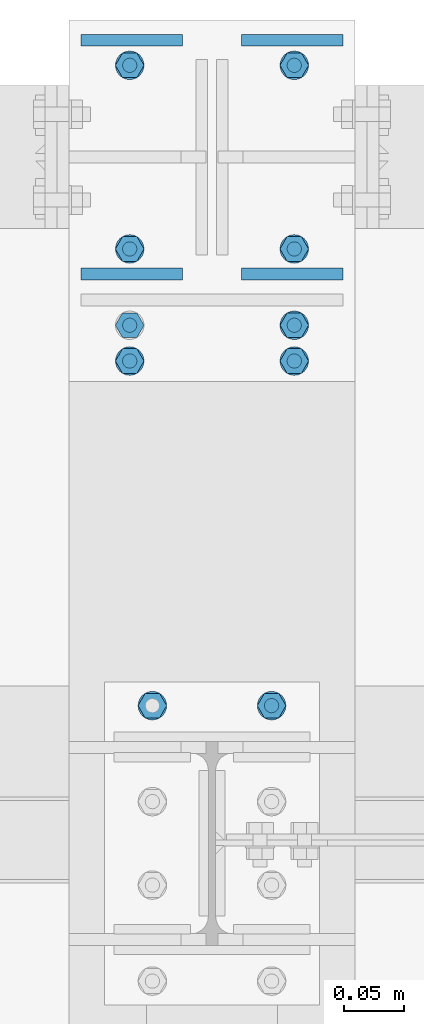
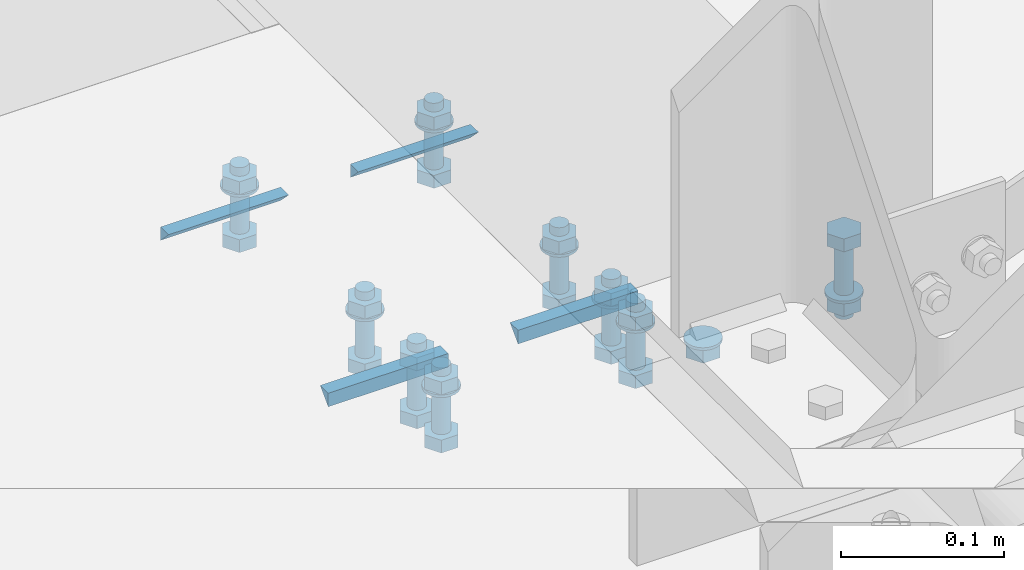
# One storey, part 60 of 66: 37 mechanical fasteners, 8 fasteners.
"""IFC4 building model written with IfcOpenShell, lengths in metres."""

from ifc_helpers import new_model, si_unit, frame, origin_with_axes, place, context, project, spatial, polyline, outline, extrude, type_object, element, save


model = new_model("IFC4")

# Units and contexts
model_context = context("Model", 3, precision=1e-05, world=origin_with_axes())
ifc_project = project(units=[si_unit("LENGTHUNIT", "METRE"), si_unit("AREAUNIT", "SQUARE_METRE"), si_unit("VOLUMEUNIT", "CUBIC_METRE"), si_unit("MASSUNIT", "GRAM", prefix="KILO"), si_unit("TIMEUNIT", "SECOND"), si_unit("PLANEANGLEUNIT", "RADIAN"), si_unit("SOLIDANGLEUNIT", "STERADIAN"), si_unit("THERMODYNAMICTEMPERATUREUNIT", "DEGREE_CELSIUS")], contexts=[model_context])

# Site, building, storey
placement_1 = place(None, origin_with_axes())
site = spatial("IfcSite", under=ifc_project, at=placement_1, Name="Italia", CompositionType="ELEMENT")
building = spatial("IfcBuilding", under=site, at=placement_1, Name="Uffici", CompositionType="ELEMENT")
storey_placement = place(None, frame((0.0, 0.0, 3.299999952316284), z_axis=(0.0, 0.0, 1.0), x_axis=(1.0, 0.0, 0.0)))
storey = spatial("IfcBuildingStorey", under=building, at=storey_placement, Name="Storey 1", CompositionType="ELEMENT", Elevation=3.299999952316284)

# Mechanical fasteners
mechanical_fastener_type_1 = type_object("IfcMechanicalFastenerType", Name="Collegamento 0109_0209", PredefinedType="BOLT")
placement_2 = place(placement_1, origin_with_axes())
mechanical_fastener_1_placement = place(placement_2, origin_with_axes())
element("IfcMechanicalFastener", 1, at=mechanical_fastener_1_placement, inside=storey, type_object=mechanical_fastener_type_1, Name="Collegamento 0109_0209", NominalDiameter=0.0119997, context=model_context, shape_type="SweptSolid", body=[
    extrude(outline(polyline([(0.0, 0.0), (0.0, 0.0120001), (0.0103922, 0.0180006), (0.0207844, 0.0120001), (0.0207844, 0.0), (0.0103922, -0.00599957), (0.0, 0.0)])), frame((9.411, 4.91961, 3.2714), z_axis=(0.0, 0.0, 1.0), x_axis=(0.0, 1.0, 0.0)), (0.0, 0.0, 1.0), 0.00959992),
])
mechanical_fastener_type_2 = type_object("IfcMechanicalFastenerType", Name="Collegamento 0109_0209", PredefinedType="BOLT")
mechanical_fastener_2_placement = place(placement_2, origin_with_axes())
element("IfcMechanicalFastener", 2, at=mechanical_fastener_2_placement, inside=storey, type_object=mechanical_fastener_type_2, Name="Collegamento 0109_0209", NominalDiameter=0.024, context=model_context, shape_type="SweptSolid", body=[
    extrude(outline(polyline([(0.0, 0.0), (-0.000409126, -0.00310612), (-0.00160789, -0.00599957), (-0.00351477, -0.00848484), (-0.00600004, -0.0103922), (-0.00889444, -0.011591), (-0.0120001, -0.0120001), (-0.0151057, -0.011591), (-0.0180001, -0.0103922), (-0.0204854, -0.00848484), (-0.0223923, -0.00599957), (-0.023591, -0.00310612), (-0.0240002, 0.0), (-0.023591, 0.00310612), (-0.0223923, 0.00599957), (-0.0204854, 0.00848484), (-0.0180001, 0.0103922), (-0.0151057, 0.011591), (-0.0120001, 0.0120001), (-0.00889444, 0.011591), (-0.00600004, 0.0103922), (-0.00351477, 0.00848484), (-0.00160789, 0.00599957), (-0.000409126, 0.00310612), (0.0, 0.0)])), frame((9.405, 4.942, 3.281), z_axis=(0.0, 0.0, 1.0), x_axis=(0.0, 1.0, 0.0)), (0.0, 0.0, 1.0), 0.00200009),
])
mechanical_fastener_type_3 = type_object("IfcMechanicalFastenerType", Name="Collegamento 0109_0209", PredefinedType="BOLT")
mechanical_fastener_3_placement = place(placement_2, origin_with_axes())
element("IfcMechanicalFastener", 3, at=mechanical_fastener_3_placement, inside=storey, type_object=mechanical_fastener_type_3, Name="Collegamento 0109_0209", NominalDiameter=0.0119997, context=model_context, shape_type="SweptSolid", body=[
    extrude(outline(polyline([(0.0, 0.0), (0.0, 0.0120001), (0.0103922, 0.0179996), (0.0207844, 0.0120001), (0.0207844, 0.0), (0.0103922, -0.00600052), (0.0, 0.0)])), frame((9.511, 4.91961, 3.32), z_axis=(0.0, 0.0, 1.0), x_axis=(0.0, 1.0, 0.0)), (0.0, 0.0, 1.0), 0.00959992),
])
mechanical_fastener_type_4 = type_object("IfcMechanicalFastenerType", Name="Collegamento 0109_0209", PredefinedType="BOLT")
mechanical_fastener_4_placement = place(placement_2, origin_with_axes())
element("IfcMechanicalFastener", 4, at=mechanical_fastener_4_placement, inside=storey, type_object=mechanical_fastener_type_4, Name="Collegamento 0109_0209", NominalDiameter=0.012, context=model_context, shape_type="SweptSolid", body=[
    extrude(outline(polyline([(0.0, 0.0), (-0.000204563, -0.00155258), (-0.000803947, -0.00300026), (-0.00175762, -0.0042429), (-0.00300026, -0.00519657), (-0.00444698, -0.00579548), (-0.00600004, -0.00599957), (-0.0075531, -0.00579548), (-0.00899982, -0.00519657), (-0.0102425, -0.0042429), (-0.0111961, -0.00300026), (-0.0117955, -0.00155258), (-0.0120001, 0.0), (-0.0117955, 0.00155258), (-0.0111961, 0.00300026), (-0.0102425, 0.0042429), (-0.00899982, 0.00519657), (-0.0075531, 0.00579548), (-0.00600004, 0.00599957), (-0.00444698, 0.00579548), (-0.00300026, 0.00519657), (-0.00175762, 0.0042429), (-0.000803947, 0.00300026), (-0.000204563, 0.00155258), (0.0, 0.0)])), frame((9.505, 4.936, 3.265), z_axis=(0.0, 0.0, 1.0), x_axis=(0.0, 1.0, 0.0)), (0.0, 0.0, 1.0), 0.0550001),
])
mechanical_fastener_type_5 = type_object("IfcMechanicalFastenerType", Name="Collegamento 0109_0209", PredefinedType="BOLT")
mechanical_fastener_5_placement = place(placement_2, origin_with_axes())
element("IfcMechanicalFastener", 5, at=mechanical_fastener_5_placement, inside=storey, type_object=mechanical_fastener_type_5, Name="Collegamento 0109_0209", NominalDiameter=0.0119997, context=model_context, shape_type="SweptSolid", body=[
    extrude(outline(polyline([(0.0, 0.0), (0.0, 0.0120001), (0.0103922, 0.0179996), (0.0207844, 0.0120001), (0.0207844, 0.0), (0.0103922, -0.00600052), (0.0, 0.0)])), frame((9.511, 4.91961, 3.2714), z_axis=(0.0, 0.0, 1.0), x_axis=(0.0, 1.0, 0.0)), (0.0, 0.0, 1.0), 0.00959992),
])
mechanical_fastener_type_6 = type_object("IfcMechanicalFastenerType", Name="Collegamento 0109_0209", PredefinedType="BOLT")
mechanical_fastener_6_placement = place(placement_2, origin_with_axes())
element("IfcMechanicalFastener", 6, at=mechanical_fastener_6_placement, inside=storey, type_object=mechanical_fastener_type_6, Name="Collegamento 0109_0209", NominalDiameter=0.024, context=model_context, shape_type="SweptSolid", body=[
    extrude(outline(polyline([(0.0, 0.0), (-0.000409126, -0.00310612), (-0.00160789, -0.00599957), (-0.00351477, -0.00848484), (-0.00600004, -0.0103922), (-0.00889444, -0.011591), (-0.0120001, -0.0120001), (-0.0151057, -0.011591), (-0.0180001, -0.0103922), (-0.0204854, -0.00848484), (-0.0223923, -0.00599957), (-0.023591, -0.00310612), (-0.0240002, 0.0), (-0.023591, 0.00310612), (-0.0223923, 0.00599957), (-0.0204854, 0.00848484), (-0.0180001, 0.0103922), (-0.0151057, 0.011591), (-0.0120001, 0.0120001), (-0.00889444, 0.011591), (-0.00600004, 0.0103922), (-0.00351477, 0.00848484), (-0.00160789, 0.00599957), (-0.000409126, 0.00310612), (0.0, 0.0)])), frame((9.505, 4.942, 3.281), z_axis=(0.0, 0.0, 1.0), x_axis=(0.0, 1.0, 0.0)), (0.0, 0.0, 1.0), 0.00200009),
])

# Fasteners
fastener_type_1 = type_object("IfcFastenerType", Name="Collegamenti 0111_0011 0112_0012 0113_0013 0114_0014 0115_0015", PredefinedType="WELD")
fastener_1_placement = place(placement_2, origin_with_axes())
element("IfcFastener", 7, at=fastener_1_placement, inside=storey, type_object=fastener_type_1, Name="Collegamenti 0111_0011 0112_0012 0113_0013 0114_0014 0115_0015", context=model_context, shape_type="SweptSolid", body=[
    extrude(outline(polyline([(0.0, 0.0), (-0.00986814, -0.0101733), (-0.00986814, 0.0), (0.0, 0.0)])), frame((9.56505, 5.48318, 3.04505), z_axis=(-1.0, 0.0, 0.0), x_axis=(0.0, -1.0, 0.0)), (0.0, 0.0, 1.0), 0.08535),
])
fastener_type_2 = type_object("IfcFastenerType", Name="Collegamenti 0111_0011 0112_0012 0113_0013 0114_0014 0115_0015", PredefinedType="WELD")
fastener_2_placement = place(placement_2, origin_with_axes())
element("IfcFastener", 8, at=fastener_2_placement, inside=storey, type_object=fastener_type_2, Name="Collegamenti 0111_0011 0112_0012 0113_0013 0114_0014 0115_0015", context=model_context, shape_type="SweptSolid", body=[
    extrude(outline(polyline([(0.0, 0.0), (-0.00986814, -0.0101733), (-0.00986814, 0.0), (0.0, 0.0)])), frame((9.4797, 5.29682, 3.04505), z_axis=(1.0, 0.0, 0.0), x_axis=(0.0, 1.0, 0.0)), (0.0, 0.0, 1.0), 0.08535),
])
fastener_type_3 = type_object("IfcFastenerType", Name="Collegamenti 0111_0011 0112_0012 0113_0013 0114_0014 0115_0015", PredefinedType="WELD")
fastener_3_placement = place(placement_2, origin_with_axes())
element("IfcFastener", 9, at=fastener_3_placement, inside=storey, type_object=fastener_type_3, Name="Collegamenti 0111_0011 0112_0012 0113_0013 0114_0014 0115_0015", context=model_context, shape_type="SweptSolid", body=[
    extrude(outline(polyline([(0.0, 0.0), (-0.00986814, -0.0101733), (-0.00986814, 0.0), (0.0, 0.0)])), frame((9.34495, 5.29682, 3.04505), z_axis=(1.0, 0.0, 0.0), x_axis=(0.0, 1.0, 0.0)), (0.0, 0.0, 1.0), 0.08535),
])
fastener_type_4 = type_object("IfcFastenerType", Name="Collegamenti 0111_0011 0112_0012 0113_0013 0114_0014 0115_0015", PredefinedType="WELD")
fastener_4_placement = place(placement_2, origin_with_axes())
element("IfcFastener", 10, at=fastener_4_placement, inside=storey, type_object=fastener_type_4, Name="Collegamenti 0111_0011 0112_0012 0113_0013 0114_0014 0115_0015", context=model_context, shape_type="SweptSolid", body=[
    extrude(outline(polyline([(0.0, 0.0), (-0.00986814, -0.0101733), (-0.00986814, 0.0), (0.0, 0.0)])), frame((9.4303, 5.48318, 3.04505), z_axis=(-1.0, 0.0, 0.0), x_axis=(0.0, -1.0, 0.0)), (0.0, 0.0, 1.0), 0.08535),
])
fastener_type_5 = type_object("IfcFastenerType", Name="Collegamenti 0111_0011 0112_0012 0113_0013 0114_0014 0115_0015", PredefinedType="WELD")
fastener_5_placement = place(placement_2, origin_with_axes())
element("IfcFastener", 11, at=fastener_5_placement, inside=storey, type_object=fastener_type_5, Name="Collegamenti 0111_0011 0112_0012 0113_0013 0114_0014 0115_0015", context=model_context, shape_type="SweptSolid", body=[
    extrude(outline(polyline([(0.0, 0.0), (-0.00986814, -0.0101733), (-0.00986814, 0.0), (0.0, 0.0)])), frame((9.56505, 5.48318, 3.04505), z_axis=(-1.0, 0.0, 0.0), x_axis=(0.0, -1.0, 0.0)), (0.0, 0.0, 1.0), 0.08535),
])
fastener_type_6 = type_object("IfcFastenerType", Name="Collegamenti 0111_0011 0112_0012 0113_0013 0114_0014 0115_0015", PredefinedType="WELD")
fastener_6_placement = place(placement_2, origin_with_axes())
element("IfcFastener", 12, at=fastener_6_placement, inside=storey, type_object=fastener_type_6, Name="Collegamenti 0111_0011 0112_0012 0113_0013 0114_0014 0115_0015", context=model_context, shape_type="SweptSolid", body=[
    extrude(outline(polyline([(0.0, 0.0), (-0.00986814, -0.0101733), (-0.00986814, 0.0), (0.0, 0.0)])), frame((9.4797, 5.29682, 3.04505), z_axis=(1.0, 0.0, 0.0), x_axis=(0.0, 1.0, 0.0)), (0.0, 0.0, 1.0), 0.08535),
])
fastener_type_7 = type_object("IfcFastenerType", Name="Collegamenti 0111_0011 0112_0012 0113_0013 0114_0014 0115_0015", PredefinedType="WELD")
fastener_7_placement = place(placement_2, origin_with_axes())
element("IfcFastener", 13, at=fastener_7_placement, inside=storey, type_object=fastener_type_7, Name="Collegamenti 0111_0011 0112_0012 0113_0013 0114_0014 0115_0015", context=model_context, shape_type="SweptSolid", body=[
    extrude(outline(polyline([(0.0, 0.0), (-0.00986814, -0.0101733), (-0.00986814, 0.0), (0.0, 0.0)])), frame((9.34495, 5.29682, 3.04505), z_axis=(1.0, 0.0, 0.0), x_axis=(0.0, 1.0, 0.0)), (0.0, 0.0, 1.0), 0.08535),
])
fastener_type_8 = type_object("IfcFastenerType", Name="Collegamenti 0111_0011 0112_0012 0113_0013 0114_0014 0115_0015", PredefinedType="WELD")
fastener_8_placement = place(placement_2, origin_with_axes())
element("IfcFastener", 14, at=fastener_8_placement, inside=storey, type_object=fastener_type_8, Name="Collegamenti 0111_0011 0112_0012 0113_0013 0114_0014 0115_0015", context=model_context, shape_type="SweptSolid", body=[
    extrude(outline(polyline([(0.0, 0.0), (-0.00986814, -0.0101733), (-0.00986814, 0.0), (0.0, 0.0)])), frame((9.4303, 5.48318, 3.04505), z_axis=(-1.0, 0.0, 0.0), x_axis=(0.0, -1.0, 0.0)), (0.0, 0.0, 1.0), 0.08535),
])

# Mechanical fasteners
mechanical_fastener_type_7 = type_object("IfcMechanicalFastenerType", Name="Collegamenti 0111_0011 0112_0012 0113_0013 0114_0014 0115_0015", PredefinedType="BOLT")
mechanical_fastener_7_placement = place(placement_2, origin_with_axes())
element("IfcMechanicalFastener", 15, at=mechanical_fastener_7_placement, inside=storey, type_object=mechanical_fastener_type_7, Name="Collegamenti 0111_0011 0112_0012 0113_0013 0114_0014 0115_0015", NominalDiameter=0.0119997, context=model_context, shape_type="SweptSolid", body=[
    extrude(outline(polyline([(0.0, 0.0), (0.0, 0.0120001), (0.0103922, 0.0180006), (0.0207849, 0.0120001), (0.0207849, 0.0), (0.0103922, -0.00599957), (0.0, 0.0)])), frame((9.518, 5.30261, 3.045), z_axis=(0.0, 0.0, -1.0), x_axis=(0.0, 1.0, 0.0)), (0.0, 0.0, 1.0), 0.00959992),
])
mechanical_fastener_type_8 = type_object("IfcMechanicalFastenerType", Name="Collegamenti 0111_0011 0112_0012 0113_0013 0114_0014 0115_0015", PredefinedType="BOLT")
mechanical_fastener_8_placement = place(placement_2, origin_with_axes())
element("IfcMechanicalFastener", 16, at=mechanical_fastener_8_placement, inside=storey, type_object=mechanical_fastener_type_8, Name="Collegamenti 0111_0011 0112_0012 0113_0013 0114_0014 0115_0015", NominalDiameter=0.012, context=model_context, shape_type="SweptSolid", body=[
    extrude(outline(polyline([(0.0, 0.0), (-0.000204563, -0.00155258), (-0.000803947, -0.00300026), (-0.00175762, -0.0042429), (-0.00300026, -0.00519657), (-0.00444698, -0.00579548), (-0.00600004, -0.00599957), (-0.0075531, -0.00579548), (-0.00899982, -0.00519657), (-0.0102425, -0.0042429), (-0.0111961, -0.00300026), (-0.0117955, -0.00155258), (-0.0120001, 0.0), (-0.0117955, 0.00155258), (-0.0111961, 0.00300026), (-0.0102425, 0.0042429), (-0.00899982, 0.00519657), (-0.0075531, 0.00579548), (-0.00600004, 0.00599957), (-0.00444698, 0.00579548), (-0.00300026, 0.00519657), (-0.00175762, 0.0042429), (-0.000803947, 0.00300026), (-0.000204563, 0.00155258), (0.0, 0.0)])), frame((9.524, 5.319, 3.095), z_axis=(0.0, 0.0, -1.0), x_axis=(0.0, 1.0, 0.0)), (0.0, 0.0, 1.0), 0.0500002),
])
mechanical_fastener_type_9 = type_object("IfcMechanicalFastenerType", Name="Collegamenti 0111_0011 0112_0012 0113_0013 0114_0014 0115_0015", PredefinedType="BOLT")
mechanical_fastener_9_placement = place(placement_2, origin_with_axes())
element("IfcMechanicalFastener", 17, at=mechanical_fastener_9_placement, inside=storey, type_object=mechanical_fastener_type_9, Name="Collegamenti 0111_0011 0112_0012 0113_0013 0114_0014 0115_0015", NominalDiameter=0.0119997, context=model_context, shape_type="SweptSolid", body=[
    extrude(outline(polyline([(0.0, 0.0), (0.0, 0.0120001), (0.0103922, 0.0180006), (0.0207849, 0.0120001), (0.0207849, 0.0), (0.0103922, -0.00599957), (0.0, 0.0)])), frame((9.518, 5.30261, 3.0886), z_axis=(0.0, 0.0, -1.0), x_axis=(0.0, 1.0, 0.0)), (0.0, 0.0, 1.0), 0.00959992),
])
mechanical_fastener_type_10 = type_object("IfcMechanicalFastenerType", Name="Collegamenti 0111_0011 0112_0012 0113_0013 0114_0014 0115_0015", PredefinedType="BOLT")
mechanical_fastener_10_placement = place(placement_2, origin_with_axes())
element("IfcMechanicalFastener", 18, at=mechanical_fastener_10_placement, inside=storey, type_object=mechanical_fastener_type_10, Name="Collegamenti 0111_0011 0112_0012 0113_0013 0114_0014 0115_0015", NominalDiameter=0.024, context=model_context, shape_type="SweptSolid", body=[
    extrude(outline(polyline([(0.0, 0.0), (-0.000409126, -0.00310612), (-0.00160789, -0.00599957), (-0.00351477, -0.00848484), (-0.00600004, -0.0103922), (-0.00889444, -0.011591), (-0.0120001, -0.0120001), (-0.0151057, -0.011591), (-0.0180001, -0.0103922), (-0.0204854, -0.00848484), (-0.0223923, -0.00599957), (-0.023591, -0.00310612), (-0.0240002, 0.0), (-0.023591, 0.00310612), (-0.0223923, 0.00599957), (-0.0204854, 0.00848484), (-0.0180001, 0.0103922), (-0.0151057, 0.011591), (-0.0120001, 0.0120001), (-0.00889444, 0.011591), (-0.00600004, 0.0103922), (-0.00351477, 0.00848484), (-0.00160789, 0.00599957), (-0.000409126, 0.00310612), (0.0, 0.0)])), frame((9.524, 5.325, 3.079), z_axis=(0.0, 0.0, -1.0), x_axis=(0.0, 1.0, 0.0)), (0.0, 0.0, 1.0), 0.00200009),
])
mechanical_fastener_type_11 = type_object("IfcMechanicalFastenerType", Name="Collegamenti 0111_0011 0112_0012 0113_0013 0114_0014 0115_0015", PredefinedType="BOLT")
mechanical_fastener_11_placement = place(placement_2, origin_with_axes())
element("IfcMechanicalFastener", 19, at=mechanical_fastener_11_placement, inside=storey, type_object=mechanical_fastener_type_11, Name="Collegamenti 0111_0011 0112_0012 0113_0013 0114_0014 0115_0015", NominalDiameter=0.0119997, context=model_context, shape_type="SweptSolid", body=[
    extrude(outline(polyline([(0.0, 0.0), (0.0, 0.0120001), (0.0103922, 0.0179996), (0.0207849, 0.0120001), (0.0207849, 0.0), (0.0103922, -0.00600052), (0.0, 0.0)])), frame((9.38, 5.30261, 3.045), z_axis=(0.0, 0.0, -1.0), x_axis=(0.0, 1.0, 0.0)), (0.0, 0.0, 1.0), 0.00959992),
])
mechanical_fastener_type_12 = type_object("IfcMechanicalFastenerType", Name="Collegamenti 0111_0011 0112_0012 0113_0013 0114_0014 0115_0015", PredefinedType="BOLT")
mechanical_fastener_12_placement = place(placement_2, origin_with_axes())
element("IfcMechanicalFastener", 20, at=mechanical_fastener_12_placement, inside=storey, type_object=mechanical_fastener_type_12, Name="Collegamenti 0111_0011 0112_0012 0113_0013 0114_0014 0115_0015", NominalDiameter=0.012, context=model_context, shape_type="SweptSolid", body=[
    extrude(outline(polyline([(0.0, 0.0), (-0.000204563, -0.00155258), (-0.000803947, -0.00300026), (-0.00175762, -0.0042429), (-0.00300026, -0.00519657), (-0.00444698, -0.00579548), (-0.00600004, -0.00599957), (-0.0075531, -0.00579548), (-0.00899982, -0.00519657), (-0.0102425, -0.0042429), (-0.0111961, -0.00300026), (-0.0117955, -0.00155258), (-0.0120001, 0.0), (-0.0117955, 0.00155258), (-0.0111961, 0.00300026), (-0.0102425, 0.0042429), (-0.00899982, 0.00519657), (-0.0075531, 0.00579548), (-0.00600004, 0.00599957), (-0.00444698, 0.00579548), (-0.00300026, 0.00519657), (-0.00175762, 0.0042429), (-0.000803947, 0.00300026), (-0.000204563, 0.00155258), (0.0, 0.0)])), frame((9.386, 5.319, 3.095), z_axis=(0.0, 0.0, -1.0), x_axis=(0.0, 1.0, 0.0)), (0.0, 0.0, 1.0), 0.0500002),
])
mechanical_fastener_type_13 = type_object("IfcMechanicalFastenerType", Name="Collegamenti 0111_0011 0112_0012 0113_0013 0114_0014 0115_0015", PredefinedType="BOLT")
mechanical_fastener_13_placement = place(placement_2, origin_with_axes())
element("IfcMechanicalFastener", 21, at=mechanical_fastener_13_placement, inside=storey, type_object=mechanical_fastener_type_13, Name="Collegamenti 0111_0011 0112_0012 0113_0013 0114_0014 0115_0015", NominalDiameter=0.0119997, context=model_context, shape_type="SweptSolid", body=[
    extrude(outline(polyline([(0.0, 0.0), (0.0, 0.0120001), (0.0103922, 0.0179996), (0.0207849, 0.0120001), (0.0207849, 0.0), (0.0103922, -0.00600052), (0.0, 0.0)])), frame((9.38, 5.30261, 3.0886), z_axis=(0.0, 0.0, -1.0), x_axis=(0.0, 1.0, 0.0)), (0.0, 0.0, 1.0), 0.00959992),
])
mechanical_fastener_type_14 = type_object("IfcMechanicalFastenerType", Name="Collegamenti 0111_0011 0112_0012 0113_0013 0114_0014 0115_0015", PredefinedType="BOLT")
mechanical_fastener_14_placement = place(placement_2, origin_with_axes())
element("IfcMechanicalFastener", 22, at=mechanical_fastener_14_placement, inside=storey, type_object=mechanical_fastener_type_14, Name="Collegamenti 0111_0011 0112_0012 0113_0013 0114_0014 0115_0015", NominalDiameter=0.024, context=model_context, shape_type="SweptSolid", body=[
    extrude(outline(polyline([(0.0, 0.0), (-0.000409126, -0.00310612), (-0.00160789, -0.00599957), (-0.00351477, -0.00848484), (-0.00600004, -0.0103922), (-0.00889444, -0.011591), (-0.0120001, -0.0120001), (-0.0151057, -0.011591), (-0.0180001, -0.0103922), (-0.0204854, -0.00848484), (-0.0223923, -0.00599957), (-0.023591, -0.00310612), (-0.0240002, 0.0), (-0.023591, 0.00310612), (-0.0223923, 0.00599957), (-0.0204854, 0.00848484), (-0.0180001, 0.0103922), (-0.0151057, 0.011591), (-0.0120001, 0.0120001), (-0.00889444, 0.011591), (-0.00600004, 0.0103922), (-0.00351477, 0.00848484), (-0.00160789, 0.00599957), (-0.000409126, 0.00310612), (0.0, 0.0)])), frame((9.386, 5.325, 3.079), z_axis=(0.0, 0.0, -1.0), x_axis=(0.0, 1.0, 0.0)), (0.0, 0.0, 1.0), 0.00200009),
])
mechanical_fastener_type_15 = type_object("IfcMechanicalFastenerType", Name="Collegamenti 0111_0011 0112_0012 0113_0013 0114_0014 0115_0015", PredefinedType="BOLT")
mechanical_fastener_15_placement = place(placement_2, origin_with_axes())
element("IfcMechanicalFastener", 23, at=mechanical_fastener_15_placement, inside=storey, type_object=mechanical_fastener_type_15, Name="Collegamenti 0111_0011 0112_0012 0113_0013 0114_0014 0115_0015", NominalDiameter=0.0119997, context=model_context, shape_type="SweptSolid", body=[
    extrude(outline(polyline([(0.0, 0.0), (0.0, 0.0120001), (0.0103927, 0.0180006), (0.0207849, 0.0120001), (0.0207849, 0.0), (0.0103927, -0.00599957), (0.0, 0.0)])), frame((9.518, 5.45661, 3.045), z_axis=(0.0, 0.0, -1.0), x_axis=(0.0, 1.0, 0.0)), (0.0, 0.0, 1.0), 0.00959992),
])
mechanical_fastener_type_16 = type_object("IfcMechanicalFastenerType", Name="Collegamenti 0111_0011 0112_0012 0113_0013 0114_0014 0115_0015", PredefinedType="BOLT")
mechanical_fastener_16_placement = place(placement_2, origin_with_axes())
element("IfcMechanicalFastener", 24, at=mechanical_fastener_16_placement, inside=storey, type_object=mechanical_fastener_type_16, Name="Collegamenti 0111_0011 0112_0012 0113_0013 0114_0014 0115_0015", NominalDiameter=0.012, context=model_context, shape_type="SweptSolid", body=[
    extrude(outline(polyline([(0.0, 0.0), (-0.000204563, -0.00155258), (-0.000803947, -0.00300026), (-0.00175762, -0.0042429), (-0.00300026, -0.00519657), (-0.00444698, -0.00579548), (-0.00600004, -0.00599957), (-0.0075531, -0.00579548), (-0.00899982, -0.00519657), (-0.0102425, -0.0042429), (-0.0111961, -0.00300026), (-0.0117955, -0.00155258), (-0.0120001, 0.0), (-0.0117955, 0.00155258), (-0.0111961, 0.00300026), (-0.0102425, 0.0042429), (-0.00899982, 0.00519657), (-0.0075531, 0.00579548), (-0.00600004, 0.00599957), (-0.00444698, 0.00579548), (-0.00300026, 0.00519657), (-0.00175762, 0.0042429), (-0.000803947, 0.00300026), (-0.000204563, 0.00155258), (0.0, 0.0)])), frame((9.524, 5.473, 3.095), z_axis=(0.0, 0.0, -1.0), x_axis=(0.0, 1.0, 0.0)), (0.0, 0.0, 1.0), 0.0500002),
])
mechanical_fastener_type_17 = type_object("IfcMechanicalFastenerType", Name="Collegamenti 0111_0011 0112_0012 0113_0013 0114_0014 0115_0015", PredefinedType="BOLT")
mechanical_fastener_17_placement = place(placement_2, origin_with_axes())
element("IfcMechanicalFastener", 25, at=mechanical_fastener_17_placement, inside=storey, type_object=mechanical_fastener_type_17, Name="Collegamenti 0111_0011 0112_0012 0113_0013 0114_0014 0115_0015", NominalDiameter=0.0119997, context=model_context, shape_type="SweptSolid", body=[
    extrude(outline(polyline([(0.0, 0.0), (0.0, 0.0120001), (0.0103927, 0.0180006), (0.0207849, 0.0120001), (0.0207849, 0.0), (0.0103927, -0.00599957), (0.0, 0.0)])), frame((9.518, 5.45661, 3.0886), z_axis=(0.0, 0.0, -1.0), x_axis=(0.0, 1.0, 0.0)), (0.0, 0.0, 1.0), 0.00959992),
])
mechanical_fastener_type_18 = type_object("IfcMechanicalFastenerType", Name="Collegamenti 0111_0011 0112_0012 0113_0013 0114_0014 0115_0015", PredefinedType="BOLT")
mechanical_fastener_18_placement = place(placement_2, origin_with_axes())
element("IfcMechanicalFastener", 26, at=mechanical_fastener_18_placement, inside=storey, type_object=mechanical_fastener_type_18, Name="Collegamenti 0111_0011 0112_0012 0113_0013 0114_0014 0115_0015", NominalDiameter=0.024, context=model_context, shape_type="SweptSolid", body=[
    extrude(outline(polyline([(0.0, 0.0), (-0.000409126, -0.00310612), (-0.00160789, -0.00599957), (-0.00351477, -0.00848484), (-0.00600004, -0.0103922), (-0.00889444, -0.011591), (-0.0120001, -0.0120001), (-0.0151057, -0.011591), (-0.0180001, -0.0103922), (-0.0204854, -0.00848484), (-0.0223923, -0.00599957), (-0.023591, -0.00310612), (-0.0240002, 0.0), (-0.023591, 0.00310612), (-0.0223923, 0.00599957), (-0.0204854, 0.00848484), (-0.0180001, 0.0103922), (-0.0151057, 0.011591), (-0.0120001, 0.0120001), (-0.00889444, 0.011591), (-0.00600004, 0.0103922), (-0.00351477, 0.00848484), (-0.00160789, 0.00599957), (-0.000409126, 0.00310612), (0.0, 0.0)])), frame((9.524, 5.479, 3.079), z_axis=(0.0, 0.0, -1.0), x_axis=(0.0, 1.0, 0.0)), (0.0, 0.0, 1.0), 0.00200009),
])
mechanical_fastener_type_19 = type_object("IfcMechanicalFastenerType", Name="Collegamenti 0111_0011 0112_0012 0113_0013 0114_0014 0115_0015", PredefinedType="BOLT")
mechanical_fastener_19_placement = place(placement_2, origin_with_axes())
element("IfcMechanicalFastener", 27, at=mechanical_fastener_19_placement, inside=storey, type_object=mechanical_fastener_type_19, Name="Collegamenti 0111_0011 0112_0012 0113_0013 0114_0014 0115_0015", NominalDiameter=0.0119997, context=model_context, shape_type="SweptSolid", body=[
    extrude(outline(polyline([(0.0, 0.0), (0.0, 0.0120001), (0.0103927, 0.0179996), (0.0207849, 0.0120001), (0.0207849, 0.0), (0.0103927, -0.00600052), (0.0, 0.0)])), frame((9.38, 5.45661, 3.045), z_axis=(0.0, 0.0, -1.0), x_axis=(0.0, 1.0, 0.0)), (0.0, 0.0, 1.0), 0.00959992),
])
mechanical_fastener_type_20 = type_object("IfcMechanicalFastenerType", Name="Collegamenti 0111_0011 0112_0012 0113_0013 0114_0014 0115_0015", PredefinedType="BOLT")
mechanical_fastener_20_placement = place(placement_2, origin_with_axes())
element("IfcMechanicalFastener", 28, at=mechanical_fastener_20_placement, inside=storey, type_object=mechanical_fastener_type_20, Name="Collegamenti 0111_0011 0112_0012 0113_0013 0114_0014 0115_0015", NominalDiameter=0.012, context=model_context, shape_type="SweptSolid", body=[
    extrude(outline(polyline([(0.0, 0.0), (-0.000204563, -0.00155258), (-0.000803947, -0.00300026), (-0.00175762, -0.0042429), (-0.00300026, -0.00519657), (-0.00444698, -0.00579548), (-0.00600004, -0.00599957), (-0.0075531, -0.00579548), (-0.00899982, -0.00519657), (-0.0102425, -0.0042429), (-0.0111961, -0.00300026), (-0.0117955, -0.00155258), (-0.0120001, 0.0), (-0.0117955, 0.00155258), (-0.0111961, 0.00300026), (-0.0102425, 0.0042429), (-0.00899982, 0.00519657), (-0.0075531, 0.00579548), (-0.00600004, 0.00599957), (-0.00444698, 0.00579548), (-0.00300026, 0.00519657), (-0.00175762, 0.0042429), (-0.000803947, 0.00300026), (-0.000204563, 0.00155258), (0.0, 0.0)])), frame((9.386, 5.473, 3.095), z_axis=(0.0, 0.0, -1.0), x_axis=(0.0, 1.0, 0.0)), (0.0, 0.0, 1.0), 0.0500002),
])
mechanical_fastener_type_21 = type_object("IfcMechanicalFastenerType", Name="Collegamenti 0111_0011 0112_0012 0113_0013 0114_0014 0115_0015", PredefinedType="BOLT")
mechanical_fastener_21_placement = place(placement_2, origin_with_axes())
element("IfcMechanicalFastener", 29, at=mechanical_fastener_21_placement, inside=storey, type_object=mechanical_fastener_type_21, Name="Collegamenti 0111_0011 0112_0012 0113_0013 0114_0014 0115_0015", NominalDiameter=0.0119997, context=model_context, shape_type="SweptSolid", body=[
    extrude(outline(polyline([(0.0, 0.0), (0.0, 0.0120001), (0.0103927, 0.0179996), (0.0207849, 0.0120001), (0.0207849, 0.0), (0.0103927, -0.00600052), (0.0, 0.0)])), frame((9.38, 5.45661, 3.0886), z_axis=(0.0, 0.0, -1.0), x_axis=(0.0, 1.0, 0.0)), (0.0, 0.0, 1.0), 0.00959992),
])
mechanical_fastener_type_22 = type_object("IfcMechanicalFastenerType", Name="Collegamenti 0111_0011 0112_0012 0113_0013 0114_0014 0115_0015", PredefinedType="BOLT")
mechanical_fastener_22_placement = place(placement_2, origin_with_axes())
element("IfcMechanicalFastener", 30, at=mechanical_fastener_22_placement, inside=storey, type_object=mechanical_fastener_type_22, Name="Collegamenti 0111_0011 0112_0012 0113_0013 0114_0014 0115_0015", NominalDiameter=0.024, context=model_context, shape_type="SweptSolid", body=[
    extrude(outline(polyline([(0.0, 0.0), (-0.000409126, -0.00310612), (-0.00160789, -0.00599957), (-0.00351477, -0.00848484), (-0.00600004, -0.0103922), (-0.00889444, -0.011591), (-0.0120001, -0.0120001), (-0.0151057, -0.011591), (-0.0180001, -0.0103922), (-0.0204854, -0.00848484), (-0.0223923, -0.00599957), (-0.023591, -0.00310612), (-0.0240002, 0.0), (-0.023591, 0.00310612), (-0.0223923, 0.00599957), (-0.0204854, 0.00848484), (-0.0180001, 0.0103922), (-0.0151057, 0.011591), (-0.0120001, 0.0120001), (-0.00889444, 0.011591), (-0.00600004, 0.0103922), (-0.00351477, 0.00848484), (-0.00160789, 0.00599957), (-0.000409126, 0.00310612), (0.0, 0.0)])), frame((9.386, 5.479, 3.079), z_axis=(0.0, 0.0, -1.0), x_axis=(0.0, 1.0, 0.0)), (0.0, 0.0, 1.0), 0.00200009),
])
mechanical_fastener_type_23 = type_object("IfcMechanicalFastenerType", Name="Collegamenti 0111_0011 0112_0012 0113_0013 0114_0014 0115_0015", PredefinedType="BOLT")
mechanical_fastener_23_placement = place(placement_2, origin_with_axes())
element("IfcMechanicalFastener", 31, at=mechanical_fastener_23_placement, inside=storey, type_object=mechanical_fastener_type_23, Name="Collegamenti 0111_0011 0112_0012 0113_0013 0114_0014 0115_0015", NominalDiameter=0.0119997, context=model_context, shape_type="SweptSolid", body=[
    extrude(outline(polyline([(0.0, 0.0), (0.0, 0.0120001), (0.0103922, 0.0180006), (0.0207844, 0.0120001), (0.0207844, 0.0), (0.0103922, -0.00599957), (0.0, 0.0)])), frame((9.518, 5.20861, 3.045), z_axis=(0.0, 0.0, -1.0), x_axis=(0.0, 1.0, 0.0)), (0.0, 0.0, 1.0), 0.00959992),
])
mechanical_fastener_type_24 = type_object("IfcMechanicalFastenerType", Name="Collegamenti 0111_0011 0112_0012 0113_0013 0114_0014 0115_0015", PredefinedType="BOLT")
mechanical_fastener_24_placement = place(placement_2, origin_with_axes())
element("IfcMechanicalFastener", 32, at=mechanical_fastener_24_placement, inside=storey, type_object=mechanical_fastener_type_24, Name="Collegamenti 0111_0011 0112_0012 0113_0013 0114_0014 0115_0015", NominalDiameter=0.012, context=model_context, shape_type="SweptSolid", body=[
    extrude(outline(polyline([(0.0, 0.0), (-0.000204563, -0.00155258), (-0.000803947, -0.00300026), (-0.00175762, -0.0042429), (-0.00300026, -0.00519657), (-0.00444698, -0.00579548), (-0.00600004, -0.00599957), (-0.0075531, -0.00579548), (-0.00899982, -0.00519657), (-0.0102425, -0.0042429), (-0.0111961, -0.00300026), (-0.0117955, -0.00155258), (-0.0120001, 0.0), (-0.0117955, 0.00155258), (-0.0111961, 0.00300026), (-0.0102425, 0.0042429), (-0.00899982, 0.00519657), (-0.0075531, 0.00579548), (-0.00600004, 0.00599957), (-0.00444698, 0.00579548), (-0.00300026, 0.00519657), (-0.00175762, 0.0042429), (-0.000803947, 0.00300026), (-0.000204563, 0.00155258), (0.0, 0.0)])), frame((9.524, 5.225, 3.095), z_axis=(0.0, 0.0, -1.0), x_axis=(0.0, 1.0, 0.0)), (0.0, 0.0, 1.0), 0.0500002),
])
mechanical_fastener_type_25 = type_object("IfcMechanicalFastenerType", Name="Collegamenti 0111_0011 0112_0012 0113_0013 0114_0014 0115_0015", PredefinedType="BOLT")
mechanical_fastener_25_placement = place(placement_2, origin_with_axes())
element("IfcMechanicalFastener", 33, at=mechanical_fastener_25_placement, inside=storey, type_object=mechanical_fastener_type_25, Name="Collegamenti 0111_0011 0112_0012 0113_0013 0114_0014 0115_0015", NominalDiameter=0.0119997, context=model_context, shape_type="SweptSolid", body=[
    extrude(outline(polyline([(0.0, 0.0), (0.0, 0.0120001), (0.0103922, 0.0180006), (0.0207844, 0.0120001), (0.0207844, 0.0), (0.0103922, -0.00599957), (0.0, 0.0)])), frame((9.518, 5.20861, 3.0886), z_axis=(0.0, 0.0, -1.0), x_axis=(0.0, 1.0, 0.0)), (0.0, 0.0, 1.0), 0.00959992),
])
mechanical_fastener_type_26 = type_object("IfcMechanicalFastenerType", Name="Collegamenti 0111_0011 0112_0012 0113_0013 0114_0014 0115_0015", PredefinedType="BOLT")
mechanical_fastener_26_placement = place(placement_2, origin_with_axes())
element("IfcMechanicalFastener", 34, at=mechanical_fastener_26_placement, inside=storey, type_object=mechanical_fastener_type_26, Name="Collegamenti 0111_0011 0112_0012 0113_0013 0114_0014 0115_0015", NominalDiameter=0.024, context=model_context, shape_type="SweptSolid", body=[
    extrude(outline(polyline([(0.0, 0.0), (-0.000409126, -0.00310612), (-0.00160789, -0.00599957), (-0.00351477, -0.00848484), (-0.00600004, -0.0103922), (-0.00889444, -0.011591), (-0.0120001, -0.0120001), (-0.0151057, -0.011591), (-0.0180001, -0.0103922), (-0.0204854, -0.00848484), (-0.0223923, -0.00599957), (-0.023591, -0.00310612), (-0.0240002, 0.0), (-0.023591, 0.00310612), (-0.0223923, 0.00599957), (-0.0204854, 0.00848484), (-0.0180001, 0.0103922), (-0.0151057, 0.011591), (-0.0120001, 0.0120001), (-0.00889444, 0.011591), (-0.00600004, 0.0103922), (-0.00351477, 0.00848484), (-0.00160789, 0.00599957), (-0.000409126, 0.00310612), (0.0, 0.0)])), frame((9.524, 5.231, 3.079), z_axis=(0.0, 0.0, -1.0), x_axis=(0.0, 1.0, 0.0)), (0.0, 0.0, 1.0), 0.00200009),
])
mechanical_fastener_type_27 = type_object("IfcMechanicalFastenerType", Name="Collegamenti 0111_0011 0112_0012 0113_0013 0114_0014 0115_0015", PredefinedType="BOLT")
mechanical_fastener_27_placement = place(placement_2, origin_with_axes())
element("IfcMechanicalFastener", 35, at=mechanical_fastener_27_placement, inside=storey, type_object=mechanical_fastener_type_27, Name="Collegamenti 0111_0011 0112_0012 0113_0013 0114_0014 0115_0015", NominalDiameter=0.0119997, context=model_context, shape_type="SweptSolid", body=[
    extrude(outline(polyline([(0.0, 0.0), (0.0, 0.0120001), (0.0103922, 0.0179996), (0.0207844, 0.0120001), (0.0207844, 0.0), (0.0103922, -0.00600052), (0.0, 0.0)])), frame((9.38, 5.20861, 3.045), z_axis=(0.0, 0.0, -1.0), x_axis=(0.0, 1.0, 0.0)), (0.0, 0.0, 1.0), 0.00959992),
])
mechanical_fastener_type_28 = type_object("IfcMechanicalFastenerType", Name="Collegamenti 0111_0011 0112_0012 0113_0013 0114_0014 0115_0015", PredefinedType="BOLT")
mechanical_fastener_28_placement = place(placement_2, origin_with_axes())
element("IfcMechanicalFastener", 36, at=mechanical_fastener_28_placement, inside=storey, type_object=mechanical_fastener_type_28, Name="Collegamenti 0111_0011 0112_0012 0113_0013 0114_0014 0115_0015", NominalDiameter=0.012, context=model_context, shape_type="SweptSolid", body=[
    extrude(outline(polyline([(0.0, 0.0), (-0.000204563, -0.00155258), (-0.000803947, -0.00300026), (-0.00175762, -0.0042429), (-0.00300026, -0.00519657), (-0.00444698, -0.00579548), (-0.00600004, -0.00599957), (-0.0075531, -0.00579548), (-0.00899982, -0.00519657), (-0.0102425, -0.0042429), (-0.0111961, -0.00300026), (-0.0117955, -0.00155258), (-0.0120001, 0.0), (-0.0117955, 0.00155258), (-0.0111961, 0.00300026), (-0.0102425, 0.0042429), (-0.00899982, 0.00519657), (-0.0075531, 0.00579548), (-0.00600004, 0.00599957), (-0.00444698, 0.00579548), (-0.00300026, 0.00519657), (-0.00175762, 0.0042429), (-0.000803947, 0.00300026), (-0.000204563, 0.00155258), (0.0, 0.0)])), frame((9.386, 5.225, 3.095), z_axis=(0.0, 0.0, -1.0), x_axis=(0.0, 1.0, 0.0)), (0.0, 0.0, 1.0), 0.0500002),
])
mechanical_fastener_type_29 = type_object("IfcMechanicalFastenerType", Name="Collegamenti 0111_0011 0112_0012 0113_0013 0114_0014 0115_0015", PredefinedType="BOLT")
mechanical_fastener_29_placement = place(placement_2, origin_with_axes())
element("IfcMechanicalFastener", 37, at=mechanical_fastener_29_placement, inside=storey, type_object=mechanical_fastener_type_29, Name="Collegamenti 0111_0011 0112_0012 0113_0013 0114_0014 0115_0015", NominalDiameter=0.0119997, context=model_context, shape_type="SweptSolid", body=[
    extrude(outline(polyline([(0.0, 0.0), (0.0, 0.0120001), (0.0103922, 0.0179996), (0.0207844, 0.0120001), (0.0207844, 0.0), (0.0103922, -0.00600052), (0.0, 0.0)])), frame((9.38, 5.20861, 3.0886), z_axis=(0.0, 0.0, -1.0), x_axis=(0.0, 1.0, 0.0)), (0.0, 0.0, 1.0), 0.00959992),
])
mechanical_fastener_type_30 = type_object("IfcMechanicalFastenerType", Name="Collegamenti 0111_0011 0112_0012 0113_0013 0114_0014 0115_0015", PredefinedType="BOLT")
mechanical_fastener_30_placement = place(placement_2, origin_with_axes())
element("IfcMechanicalFastener", 38, at=mechanical_fastener_30_placement, inside=storey, type_object=mechanical_fastener_type_30, Name="Collegamenti 0111_0011 0112_0012 0113_0013 0114_0014 0115_0015", NominalDiameter=0.024, context=model_context, shape_type="SweptSolid", body=[
    extrude(outline(polyline([(0.0, 0.0), (-0.000409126, -0.00310612), (-0.00160789, -0.00599957), (-0.00351477, -0.00848484), (-0.00600004, -0.0103922), (-0.00889444, -0.011591), (-0.0120001, -0.0120001), (-0.0151057, -0.011591), (-0.0180001, -0.0103922), (-0.0204854, -0.00848484), (-0.0223923, -0.00599957), (-0.023591, -0.00310612), (-0.0240002, 0.0), (-0.023591, 0.00310612), (-0.0223923, 0.00599957), (-0.0204854, 0.00848484), (-0.0180001, 0.0103922), (-0.0151057, 0.011591), (-0.0120001, 0.0120001), (-0.00889444, 0.011591), (-0.00600004, 0.0103922), (-0.00351477, 0.00848484), (-0.00160789, 0.00599957), (-0.000409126, 0.00310612), (0.0, 0.0)])), frame((9.386, 5.231, 3.079), z_axis=(0.0, 0.0, -1.0), x_axis=(0.0, 1.0, 0.0)), (0.0, 0.0, 1.0), 0.00200009),
])
mechanical_fastener_type_31 = type_object("IfcMechanicalFastenerType", Name="Collegamenti 0111_0011 0112_0012 0113_0013 0114_0014 0115_0015", PredefinedType="BOLT")
mechanical_fastener_31_placement = place(placement_2, origin_with_axes())
element("IfcMechanicalFastener", 39, at=mechanical_fastener_31_placement, inside=storey, type_object=mechanical_fastener_type_31, Name="Collegamenti 0111_0011 0112_0012 0113_0013 0114_0014 0115_0015", NominalDiameter=0.0119997, context=model_context, shape_type="SweptSolid", body=[
    extrude(outline(polyline([(0.0, 0.0), (0.0, 0.0120001), (0.0103927, 0.0180006), (0.0207849, 0.0120001), (0.0207849, 0.0), (0.0103927, -0.00599957), (0.0, 0.0)])), frame((9.518, 5.23861, 3.045), z_axis=(0.0, 0.0, -1.0), x_axis=(0.0, 1.0, 0.0)), (0.0, 0.0, 1.0), 0.00959992),
])
mechanical_fastener_type_32 = type_object("IfcMechanicalFastenerType", Name="Collegamenti 0111_0011 0112_0012 0113_0013 0114_0014 0115_0015", PredefinedType="BOLT")
mechanical_fastener_32_placement = place(placement_2, origin_with_axes())
element("IfcMechanicalFastener", 40, at=mechanical_fastener_32_placement, inside=storey, type_object=mechanical_fastener_type_32, Name="Collegamenti 0111_0011 0112_0012 0113_0013 0114_0014 0115_0015", NominalDiameter=0.012, context=model_context, shape_type="SweptSolid", body=[
    extrude(outline(polyline([(0.0, 0.0), (-0.000204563, -0.00155258), (-0.000803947, -0.00300026), (-0.00175762, -0.0042429), (-0.00300026, -0.00519657), (-0.00444698, -0.00579548), (-0.00600004, -0.00599957), (-0.0075531, -0.00579548), (-0.00899982, -0.00519657), (-0.0102425, -0.0042429), (-0.0111961, -0.00300026), (-0.0117955, -0.00155258), (-0.0120001, 0.0), (-0.0117955, 0.00155258), (-0.0111961, 0.00300026), (-0.0102425, 0.0042429), (-0.00899982, 0.00519657), (-0.0075531, 0.00579548), (-0.00600004, 0.00599957), (-0.00444698, 0.00579548), (-0.00300026, 0.00519657), (-0.00175762, 0.0042429), (-0.000803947, 0.00300026), (-0.000204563, 0.00155258), (0.0, 0.0)])), frame((9.524, 5.255, 3.095), z_axis=(0.0, 0.0, -1.0), x_axis=(0.0, 1.0, 0.0)), (0.0, 0.0, 1.0), 0.0500002),
])
mechanical_fastener_type_33 = type_object("IfcMechanicalFastenerType", Name="Collegamenti 0111_0011 0112_0012 0113_0013 0114_0014 0115_0015", PredefinedType="BOLT")
mechanical_fastener_33_placement = place(placement_2, origin_with_axes())
element("IfcMechanicalFastener", 41, at=mechanical_fastener_33_placement, inside=storey, type_object=mechanical_fastener_type_33, Name="Collegamenti 0111_0011 0112_0012 0113_0013 0114_0014 0115_0015", NominalDiameter=0.0119997, context=model_context, shape_type="SweptSolid", body=[
    extrude(outline(polyline([(0.0, 0.0), (0.0, 0.0120001), (0.0103927, 0.0180006), (0.0207849, 0.0120001), (0.0207849, 0.0), (0.0103927, -0.00599957), (0.0, 0.0)])), frame((9.518, 5.23861, 3.0886), z_axis=(0.0, 0.0, -1.0), x_axis=(0.0, 1.0, 0.0)), (0.0, 0.0, 1.0), 0.00959992),
])
mechanical_fastener_type_34 = type_object("IfcMechanicalFastenerType", Name="Collegamenti 0111_0011 0112_0012 0113_0013 0114_0014 0115_0015", PredefinedType="BOLT")
mechanical_fastener_34_placement = place(placement_2, origin_with_axes())
element("IfcMechanicalFastener", 42, at=mechanical_fastener_34_placement, inside=storey, type_object=mechanical_fastener_type_34, Name="Collegamenti 0111_0011 0112_0012 0113_0013 0114_0014 0115_0015", NominalDiameter=0.024, context=model_context, shape_type="SweptSolid", body=[
    extrude(outline(polyline([(0.0, 0.0), (-0.000409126, -0.00310612), (-0.00160789, -0.00599957), (-0.00351477, -0.00848484), (-0.00600004, -0.0103922), (-0.00889444, -0.011591), (-0.0120001, -0.0120001), (-0.0151057, -0.011591), (-0.0180001, -0.0103922), (-0.0204854, -0.00848484), (-0.0223923, -0.00599957), (-0.023591, -0.00310612), (-0.0240002, 0.0), (-0.023591, 0.00310612), (-0.0223923, 0.00599957), (-0.0204854, 0.00848484), (-0.0180001, 0.0103922), (-0.0151057, 0.011591), (-0.0120001, 0.0120001), (-0.00889444, 0.011591), (-0.00600004, 0.0103922), (-0.00351477, 0.00848484), (-0.00160789, 0.00599957), (-0.000409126, 0.00310612), (0.0, 0.0)])), frame((9.524, 5.261, 3.079), z_axis=(0.0, 0.0, -1.0), x_axis=(0.0, 1.0, 0.0)), (0.0, 0.0, 1.0), 0.00200009),
])
mechanical_fastener_type_35 = type_object("IfcMechanicalFastenerType", Name="Collegamenti 0111_0011 0112_0012 0113_0013 0114_0014 0115_0015", PredefinedType="BOLT")
mechanical_fastener_35_placement = place(placement_2, origin_with_axes())
element("IfcMechanicalFastener", 43, at=mechanical_fastener_35_placement, inside=storey, type_object=mechanical_fastener_type_35, Name="Collegamenti 0111_0011 0112_0012 0113_0013 0114_0014 0115_0015", NominalDiameter=0.0119997, context=model_context, shape_type="SweptSolid", body=[
    extrude(outline(polyline([(0.0, 0.0), (0.0, 0.0120001), (0.0103927, 0.0179996), (0.0207849, 0.0120001), (0.0207849, 0.0), (0.0103927, -0.00600052), (0.0, 0.0)])), frame((9.38, 5.23861, 3.045), z_axis=(0.0, 0.0, -1.0), x_axis=(0.0, 1.0, 0.0)), (0.0, 0.0, 1.0), 0.00959992),
])
mechanical_fastener_type_36 = type_object("IfcMechanicalFastenerType", Name="Collegamenti 0111_0011 0112_0012 0113_0013 0114_0014 0115_0015", PredefinedType="BOLT")
mechanical_fastener_36_placement = place(placement_2, origin_with_axes())
element("IfcMechanicalFastener", 44, at=mechanical_fastener_36_placement, inside=storey, type_object=mechanical_fastener_type_36, Name="Collegamenti 0111_0011 0112_0012 0113_0013 0114_0014 0115_0015", NominalDiameter=0.012, context=model_context, shape_type="SweptSolid", body=[
    extrude(outline(polyline([(0.0, 0.0), (-0.000204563, -0.00155258), (-0.000803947, -0.00300026), (-0.00175762, -0.0042429), (-0.00300026, -0.00519657), (-0.00444698, -0.00579548), (-0.00600004, -0.00599957), (-0.0075531, -0.00579548), (-0.00899982, -0.00519657), (-0.0102425, -0.0042429), (-0.0111961, -0.00300026), (-0.0117955, -0.00155258), (-0.0120001, 0.0), (-0.0117955, 0.00155258), (-0.0111961, 0.00300026), (-0.0102425, 0.0042429), (-0.00899982, 0.00519657), (-0.0075531, 0.00579548), (-0.00600004, 0.00599957), (-0.00444698, 0.00579548), (-0.00300026, 0.00519657), (-0.00175762, 0.0042429), (-0.000803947, 0.00300026), (-0.000204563, 0.00155258), (0.0, 0.0)])), frame((9.386, 5.255, 3.095), z_axis=(0.0, 0.0, -1.0), x_axis=(0.0, 1.0, 0.0)), (0.0, 0.0, 1.0), 0.0500002),
])
mechanical_fastener_type_37 = type_object("IfcMechanicalFastenerType", Name="Collegamenti 0111_0011 0112_0012 0113_0013 0114_0014 0115_0015", PredefinedType="BOLT")
mechanical_fastener_37_placement = place(placement_2, origin_with_axes())
element("IfcMechanicalFastener", 45, at=mechanical_fastener_37_placement, inside=storey, type_object=mechanical_fastener_type_37, Name="Collegamenti 0111_0011 0112_0012 0113_0013 0114_0014 0115_0015", NominalDiameter=0.0119997, context=model_context, shape_type="SweptSolid", body=[
    extrude(outline(polyline([(0.0, 0.0), (0.0, 0.0120001), (0.0103927, 0.0179996), (0.0207849, 0.0120001), (0.0207849, 0.0), (0.0103927, -0.00600052), (0.0, 0.0)])), frame((9.38, 5.23861, 3.0886), z_axis=(0.0, 0.0, -1.0), x_axis=(0.0, 1.0, 0.0)), (0.0, 0.0, 1.0), 0.00959992),
])

save(model, "model.ifc")
